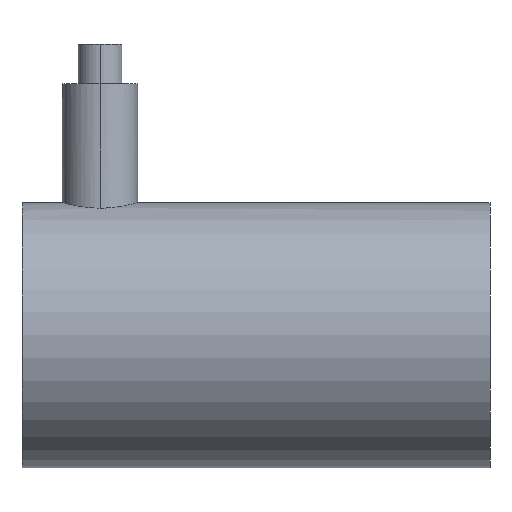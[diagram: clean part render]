
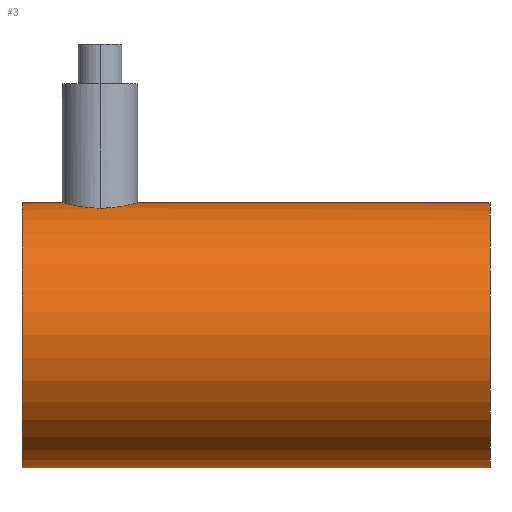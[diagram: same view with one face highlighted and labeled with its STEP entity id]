
A CAD part, left-side view. The second image highlights one B-rep face of the part: STEP entity #3.
In plain terms, the highlighted cylindrical face has radius 8.496 mm (diameter 16.993 mm), a partial arc.
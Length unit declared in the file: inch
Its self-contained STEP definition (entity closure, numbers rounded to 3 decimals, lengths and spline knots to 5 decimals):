
#3 = ADVANCED_FACE ( 'NONE', ( #85 ), #77, .T. ) ;
#26 = ORIENTED_EDGE ( 'NONE', *, *, #389, .F. ) ;
#31 = ORIENTED_EDGE ( 'NONE', *, *, #355, .T. ) ;
#36 = ORIENTED_EDGE ( 'NONE', *, *, #375, .T. ) ;
#39 = ORIENTED_EDGE ( 'NONE', *, *, #353, .F. ) ;
#52 = ORIENTED_EDGE ( 'NONE', *, *, #368, .F. ) ;
#69 = CIRCLE ( 'NONE', #366, 0.3345 ) ;
#72 = EDGE_LOOP ( 'NONE', ( #26, #39, #36, #31, #96, #52, #97 ) ) ;
#77 = CYLINDRICAL_SURFACE ( 'NONE', #360, 0.3345 ) ;
#83 = LINE ( 'NONE', #215, #87 ) ;
#85 = FACE_OUTER_BOUND ( 'NONE', #72, .T. ) ;
#87 = VECTOR ( 'NONE', #221, 39.37008 ) ;
#90 = CIRCLE ( 'NONE', #381, 0.3345 ) ;
#96 = ORIENTED_EDGE ( 'NONE', *, *, #380, .F. ) ;
#97 = ORIENTED_EDGE ( 'NONE', *, *, #351, .F. ) ;
#113 = LINE ( 'NONE', #246, #117 ) ;
#115 = LINE ( 'NONE', #261, #129 ) ;
#117 = VECTOR ( 'NONE', #242, 39.37008 ) ;
#129 = VECTOR ( 'NONE', #266, 39.37008 ) ;
#182 = CARTESIAN_POINT ( 'NONE',  ( -0.04787, 0.90102, 0.33126 ) ) ;
#183 = CARTESIAN_POINT ( 'NONE',  ( 0., 0.889, 0.3345 ) ) ;
#185 = CARTESIAN_POINT ( 'NONE',  ( -0.08239, 0.93631, 0.32421 ) ) ;
#190 = CARTESIAN_POINT ( 'NONE',  ( -0.05843, 0.90808, 0.32948 ) ) ;
#193 = CARTESIAN_POINT ( 'NONE',  ( -0.07151, 0.92115, 0.3268 ) ) ;
#194 = CARTESIAN_POINT ( 'NONE',  ( -0.01242, 0.88961, 0.33433 ) ) ;
#199 = CARTESIAN_POINT ( 'NONE',  ( -0.095, 0.984, 0.32073 ) ) ;
#202 = CARTESIAN_POINT ( 'NONE',  ( -0.095, 0.97769, 0.32073 ) ) ;
#203 = CARTESIAN_POINT ( 'NONE',  ( -0.09194, 0.9593, 0.32162 ) ) ;
#204 = CARTESIAN_POINT ( 'NONE',  ( -0.0901, 0.95324, 0.32215 ) ) ;
#205 = CARTESIAN_POINT ( 'NONE',  ( -0.03073, 0.8939, 0.33313 ) ) ;
#207 = CARTESIAN_POINT ( 'NONE',  ( -0.09438, 0.97148, 0.32091 ) ) ;
#208 = CARTESIAN_POINT ( 'NONE',  ( -0.00624, 0.889, 0.3345 ) ) ;
#211 = CARTESIAN_POINT ( 'NONE',  ( -0.02471, 0.89206, 0.33364 ) ) ;
#214 = CARTESIAN_POINT ( 'NONE',  ( -0.0755, 0.926, 0.32589 ) ) ;
#215 = CARTESIAN_POINT ( 'NONE',  ( 0., 1.181, -0.3345 ) ) ;
#218 = CARTESIAN_POINT ( 'NONE',  ( -0.08532, 0.94175, 0.32345 ) ) ;
#221 = DIRECTION ( 'NONE',  ( 0., -1., 0. ) ) ;
#226 = DIRECTION ( 'NONE',  ( 0., 0., 1. ) ) ;
#242 = DIRECTION ( 'NONE',  ( 0., -1., 0. ) ) ;
#246 = CARTESIAN_POINT ( 'NONE',  ( 0., 1.181, 0.3345 ) ) ;
#261 = CARTESIAN_POINT ( 'NONE',  ( 0., 1.181, 0.3345 ) ) ;
#266 = DIRECTION ( 'NONE',  ( 0., -1., 0. ) ) ;
#270 = DIRECTION ( 'NONE',  ( 0., 1., 0. ) ) ;
#271 = CARTESIAN_POINT ( 'NONE',  ( 0., 0.889, 0.3345 ) ) ;
#272 = CARTESIAN_POINT ( 'NONE',  ( 0., 1.181, -0.3345 ) ) ;
#273 = CARTESIAN_POINT ( 'NONE',  ( 0., 1.181, 0.3345 ) ) ;
#276 = CARTESIAN_POINT ( 'NONE',  ( -0.095, 0.984, 0.32073 ) ) ;
#283 = CARTESIAN_POINT ( 'NONE',  ( 0., 0., -0.3345 ) ) ;
#285 = CARTESIAN_POINT ( 'NONE',  ( 0., 0., 0.3345 ) ) ;
#286 = CARTESIAN_POINT ( 'NONE',  ( 0., 1.079, 0.3345 ) ) ;
#295 = DIRECTION ( 'NONE',  ( 0., 0., -1. ) ) ;
#298 = DIRECTION ( 'NONE',  ( 0., -1., 0. ) ) ;
#300 = CARTESIAN_POINT ( 'NONE',  ( 0., 1.181, 0. ) ) ;
#305 = CARTESIAN_POINT ( 'NONE',  ( 0., 1.079, 0.3345 ) ) ;
#306 = CARTESIAN_POINT ( 'NONE',  ( -0.00626, 1.079, 0.3345 ) ) ;
#307 = CARTESIAN_POINT ( 'NONE',  ( -0.01245, 1.07839, 0.33432 ) ) ;
#313 = CARTESIAN_POINT ( 'NONE',  ( 0., 0., 0. ) ) ;
#314 = CARTESIAN_POINT ( 'NONE',  ( -0.09193, 1.00875, 0.32162 ) ) ;
#315 = CARTESIAN_POINT ( 'NONE',  ( -0.09438, 0.99652, 0.32091 ) ) ;
#316 = CARTESIAN_POINT ( 'NONE',  ( -0.095, 0.99031, 0.32073 ) ) ;
#317 = CARTESIAN_POINT ( 'NONE',  ( -0.095, 0.984, 0.32073 ) ) ;
#318 = CARTESIAN_POINT ( 'NONE',  ( 0., 1.181, 0. ) ) ;
#319 = VERTEX_POINT ( 'NONE', #285 ) ;
#320 = VERTEX_POINT ( 'NONE', #286 ) ;
#321 = VERTEX_POINT ( 'NONE', #283 ) ;
#322 = VERTEX_POINT ( 'NONE', #272 ) ;
#324 = VERTEX_POINT ( 'NONE', #276 ) ;
#326 = VERTEX_POINT ( 'NONE', #271 ) ;
#327 = VERTEX_POINT ( 'NONE', #273 ) ;
#335 = CARTESIAN_POINT ( 'NONE',  ( -0.07549, 1.042, 0.32589 ) ) ;
#336 = CARTESIAN_POINT ( 'NONE',  ( -0.0824, 1.03169, 0.32421 ) ) ;
#337 = CARTESIAN_POINT ( 'NONE',  ( -0.04791, 1.06697, 0.33125 ) ) ;
#338 = CARTESIAN_POINT ( 'NONE',  ( -0.05845, 1.0599, 0.32947 ) ) ;
#339 = CARTESIAN_POINT ( 'NONE',  ( -0.03074, 1.0741, 0.33313 ) ) ;
#340 = CARTESIAN_POINT ( 'NONE',  ( -0.02468, 1.07595, 0.33364 ) ) ;
#341 = CARTESIAN_POINT ( 'NONE',  ( -0.07151, 1.04684, 0.3268 ) ) ;
#342 = CARTESIAN_POINT ( 'NONE',  ( -0.08531, 1.02625, 0.32345 ) ) ;
#343 = CARTESIAN_POINT ( 'NONE',  ( -0.09008, 1.01481, 0.32215 ) ) ;
#351 = EDGE_CURVE ( 'NONE', #320, #324, #405, .T. ) ;
#353 = EDGE_CURVE ( 'NONE', #322, #327, #90, .T. ) ;
#355 = EDGE_CURVE ( 'NONE', #321, #319, #69, .T. ) ;
#360 = AXIS2_PLACEMENT_3D ( 'NONE', #300, #298, #295 ) ;
#366 = AXIS2_PLACEMENT_3D ( 'NONE', #313, #270, #226 ) ;
#368 = EDGE_CURVE ( 'NONE', #324, #326, #406, .T. ) ;
#375 = EDGE_CURVE ( 'NONE', #322, #321, #83, .T. ) ;
#380 = EDGE_CURVE ( 'NONE', #326, #319, #115, .T. ) ;
#381 = AXIS2_PLACEMENT_3D ( 'NONE', #318, #410, #409 ) ;
#389 = EDGE_CURVE ( 'NONE', #327, #320, #113, .T. ) ;
#405 = B_SPLINE_CURVE_WITH_KNOTS ( 'NONE', 3,
 ( #305, #306, #307, #340, #339, #337, #338, #341, #335, #336, #342, #343, #314, #315, #316, #317 ),
 .UNSPECIFIED., .F., .F.,
 ( 4, 2, 2, 2, 2, 2, 2, 4 ),
 ( 0.01137, 0.01185, 0.01232, 0.01327, 0.01374, 0.01422, 0.01469, 0.01516 ),
 .UNSPECIFIED. ) ;
#406 = B_SPLINE_CURVE_WITH_KNOTS ( 'NONE', 3,
 ( #199, #202, #207, #203, #204, #218, #185, #214, #193, #190, #182, #205, #211, #194, #208, #183 ),
 .UNSPECIFIED., .F., .F.,
 ( 4, 2, 2, 2, 2, 2, 2, 4 ),
 ( 0., 0.00047, 0.00095, 0.00142, 0.0019, 0.00284, 0.00332, 0.00379 ),
 .UNSPECIFIED. ) ;
#409 = DIRECTION ( 'NONE',  ( 0., 0., 1. ) ) ;
#410 = DIRECTION ( 'NONE',  ( 0., 1., 0. ) ) ;
